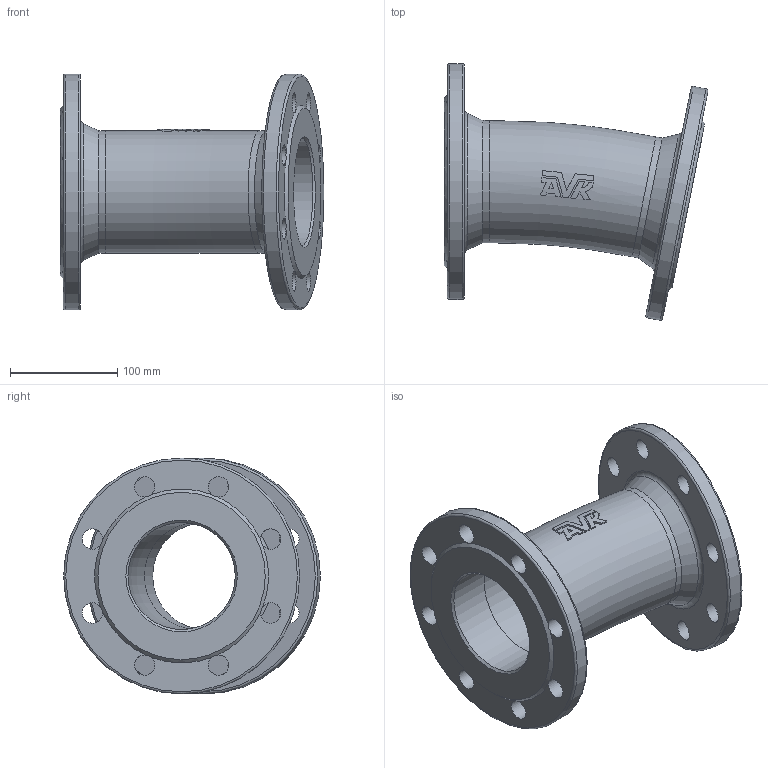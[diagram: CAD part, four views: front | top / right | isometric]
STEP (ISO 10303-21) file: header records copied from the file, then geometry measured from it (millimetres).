
FILE_DESCRIPTION (( 'STEP AP203' ), '1' );
FILE_NAME ('O_712_0110_DN100_1X_REV01.step', '2024-08-15T07:34:56', ( '' ), ( '' ), 'SwSTEP 2.0', 'SolidWorks 2022', '' );
FILE_SCHEMA (( 'CONFIG_CONTROL_DESIGN' ));
Length unit declared in the file: millimetre
Products named in the file (1): O_712_0110_DN100_1X_REV01
Bounding box: 245.96 x 239.38 x 220 mm (x, y, z)
Volume: 1465570.9 mm3; surface area: 279148 mm2
Topology: 1 solids, 1 shells, 83 faces, 258 edges, 169 vertices
Faces by surface type: plane 41, cylinder 24, torus 12, cone 6
Full cylindrical faces by diameter (mm): 19 x16, 100 x2, 114 x2, 220 x2
Entity records: 2922 total; most frequent: CARTESIAN_POINT 901, ORIENTED_EDGE 398, DIRECTION 349, EDGE_CURVE 199, AXIS2_PLACEMENT_3D 156, VERTEX_POINT 146, EDGE_LOOP 145, FACE_OUTER_BOUND 113
